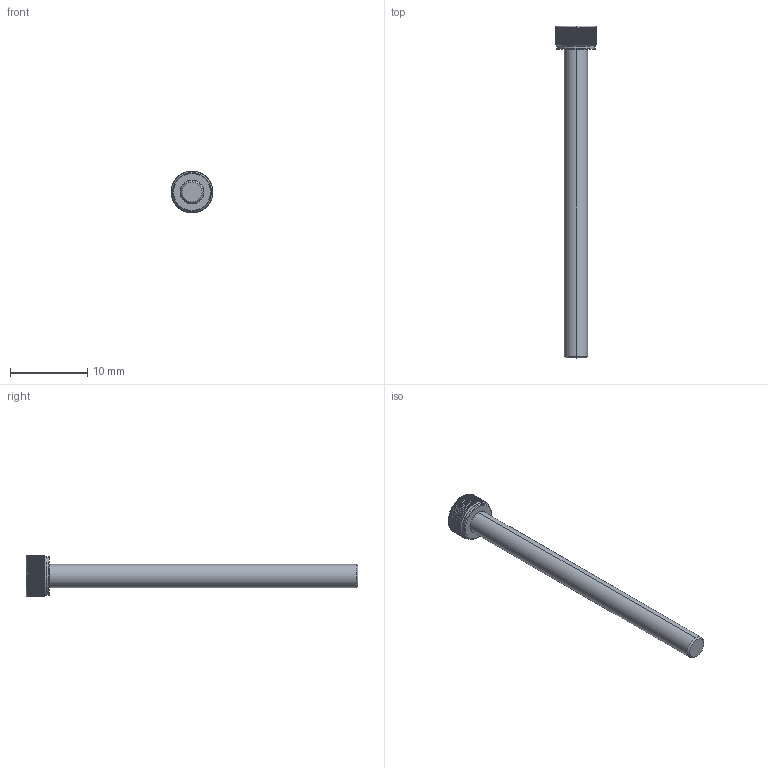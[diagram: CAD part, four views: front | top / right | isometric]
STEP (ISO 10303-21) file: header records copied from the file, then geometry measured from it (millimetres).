
FILE_DESCRIPTION (( 'STEP AP203' ), '1' );
FILE_NAME ('LGDT-304-M3x40.STEP', '2026-08-10T00:55:14', ( '' ), ( '' ), 'SwSTEP 2.0', 'SolidWorks 2020', '' );
FILE_SCHEMA (( 'CONFIG_CONTROL_DESIGN' ));
Length unit declared in the file: millimetre
Products named in the file (1): LGDT-304-M3x40
Bounding box: 5.4 x 43 x 5.4 mm (x, y, z)
Volume: 340.5 mm3; surface area: 480.7 mm2
Topology: 1 solids, 1 shells, 204 faces, 576 edges, 376 vertices
Faces by surface type: cylinder 175, cone 11, plane 10, torus 8
Entity records: 10019 total; most frequent: CARTESIAN_POINT 4860, ORIENTED_EDGE 1152, DIRECTION 988, EDGE_CURVE 576, AXIS2_PLACEMENT_3D 398, VERTEX_POINT 376, EDGE_LOOP 206, ADVANCED_FACE 204
